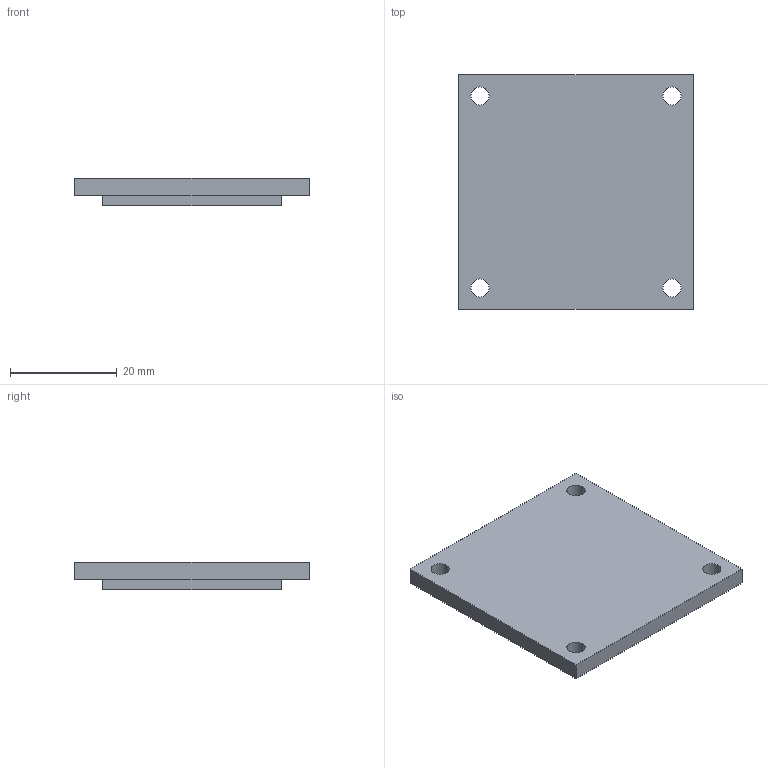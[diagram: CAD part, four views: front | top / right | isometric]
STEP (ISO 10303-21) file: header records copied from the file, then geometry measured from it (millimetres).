
FILE_DESCRIPTION(('Open CASCADE Model'),'2;1');
FILE_NAME('Open CASCADE Shape Model','2026-11-19T15:07:55',('Author'),( 'Open CASCADE'),'Open CASCADE STEP processor 8.0','Open CASCADE 8.0' ,'Unknown');
FILE_SCHEMA(('AUTOMOTIVE_DESIGN { 1 0 10303 214 1 1 1 1 }'));
Length unit declared in the file: millimetre
Products named in the file (1): Open CASCADE STEP translator 8.0 9
Bounding box: 44 x 44 x 5.2 mm (x, y, z)
Volume: 8310.1 mm3; surface area: 4766.5 mm2
Topology: 1 solids, 1 shells, 15 faces, 36 edges, 24 vertices
Faces by surface type: plane 11, cylinder 4
Full cylindrical faces by diameter (mm): 3.4 x4
Entity records: 932 total; most frequent: CARTESIAN_POINT 148, DIRECTION 148, LINE 92, VECTOR 92, ORIENTED_EDGE 72, PCURVE 72, DEFINITIONAL_REPRESENTATION 72, EDGE_CURVE 36
